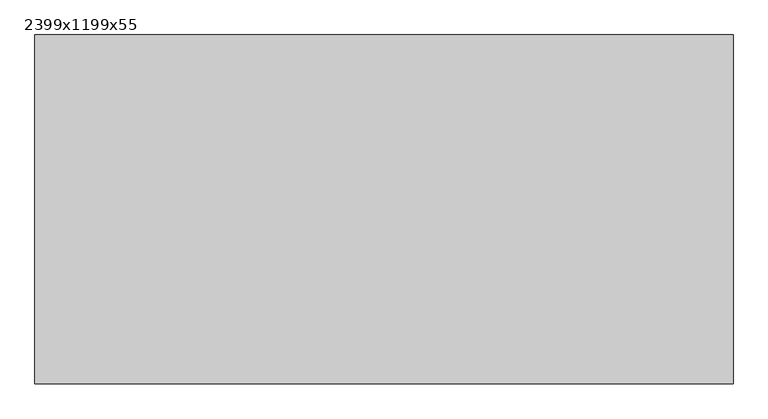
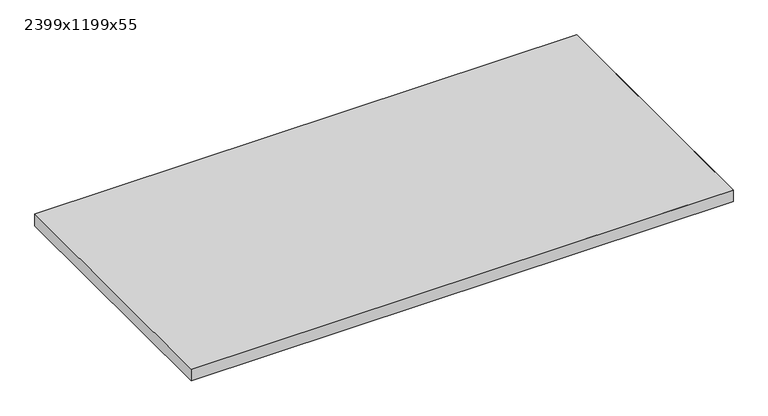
"""IFC4 building model written with IfcOpenShell, lengths in millimetres: proxy geometry, Texaa Panneaux Stereo fixés contre support par système magnétique séparés ou groupés au mur : 2399x1199x55."""

from ifc_helpers import new_model, si_unit, frame, origin, place, context, project, spatial, polyline, outline, extrude, faceted_brep, source, transform, mapped, element, save


def proxy_2399x1199x55_7cd0592e(model_context):
    return source(origin(), model_context, "Body", "SolidModel", [
        extrude(outline(polyline([(-1198.5, 598.5), (1198.5, 598.5), (1198.5, -598.5), (-1198.5, -598.5), (-1198.5, 598.5)])), frame((0.0, 0.0, 11.0), z_axis=(0.0, 0.0, 1.0), x_axis=(1.0, 0.0, 0.0)), (0.0, 0.0, 1.0), 53.0),
        faceted_brep([(1199.5, -599.5, 65.0), (1199.5, 599.5, 65.0), (-1199.5, 599.5, 65.0), (-1199.5, 598.3820592, 65.0), (-1199.5, 597.2641184, 65.0), (-1199.5, 543.6029602, 65.0), (-1199.5, -599.5, 65.0), (1087.6593007, -599.5, 65.0), (1195.026372, -599.5, 65.0), (1197.263186, -599.5, 65.0), (-1199.5, 599.5, 10.0), (1199.5, 599.5, 10.0), (1199.5, -599.5, 10.0), (-1199.5, -599.5, 10.0), (-1149.5, -549.5, 10.0), (1149.5, -549.5, 10.0), (1149.5, 549.5, 10.0), (-1149.5, 549.5, 10.0), (-1199.5, 599.5, 64.0), (1199.5, -599.5, 64.0), (-1149.5, -549.5, 11.0), (1149.5, -549.5, 11.0), (1149.5, 549.5, 11.0), (-1149.5, 549.5, 11.0), (1198.5, 598.5, 64.0), (1198.5, -598.5, 64.0), (1197.499166, -598.5, 64.0), (1195.262352, -598.5, 64.0), (1193.025538, -598.5, 64.0), (1085.6584667, -598.5, 64.0), (-1198.5, -598.5, 64.0), (-1198.5, 543.1031686, 64.0), (-1198.5, 596.7643268, 64.0), (-1198.5, 597.8822676, 64.0), (-1198.5, 598.5, 64.0), (-1197.499166, 598.5, 64.0), (-1198.5, 598.5, 11.0), (-1198.5, -598.5, 11.0), (1198.5, -598.5, 11.0), (1198.5, 598.5, 11.0)], [[[0, 1, 2, 3, 4, 5, 6, 7, 8, 9]], [[10, 11, 12, 13], [14, 15, 16, 17]], [[10, 13, 6, 5, 4, 3, 2, 18]], [[13, 12, 19, 0, 9, 8, 7, 6]], [[1, 0, 19, 12, 11]], [[2, 1, 11, 10, 18]], [[14, 20, 21, 15]], [[15, 21, 22, 16]], [[16, 22, 23, 17]], [[20, 14, 17, 23]], [[24, 25, 26, 27, 28, 29, 30, 31, 32, 33, 34, 35]], [[36, 37, 38, 39], [21, 20, 23, 22]], [[37, 36, 34, 33, 32, 31, 30]], [[38, 37, 30, 29, 28, 27, 26, 25]], [[25, 24, 39, 38]], [[36, 39, 24, 35, 34]]]),
    ])


if __name__ == "__main__":
    model = new_model("IFC4")
    model_context = context("Model", 3, world=origin())
    ifc_project = project(units=[si_unit("LENGTHUNIT", "METRE", prefix="MILLI")], contexts=[model_context])
    site = spatial("IfcSite", under=ifc_project)
    building = spatial("IfcBuilding", under=site)
    placement = place(None, origin())
    proxy_2399x1199x55_shape = proxy_2399x1199x55_7cd0592e(model_context)
    element("IfcBuildingElementProxy", 1, Name="Texaa Panneaux Stereo fixés contre support par système magnétique séparés ou groupés au mur : 2399x1199x55", ObjectType="Texaa Panneaux Stereo fixés contre support par système magnétique séparés ou groupés au mur : 2399x1199x55", at=placement, inside=building, context=model_context, shape_type="MappedRepresentation", body=[
        mapped(proxy_2399x1199x55_shape, transform((0.0, 0.0, 0.0), x_axis=(1.0, 0.0, 0.0), y_axis=(0.0, 1.0, 0.0), z_axis=(0.0, 0.0, 1.0))),
    ])
    save(model, "model.ifc")
